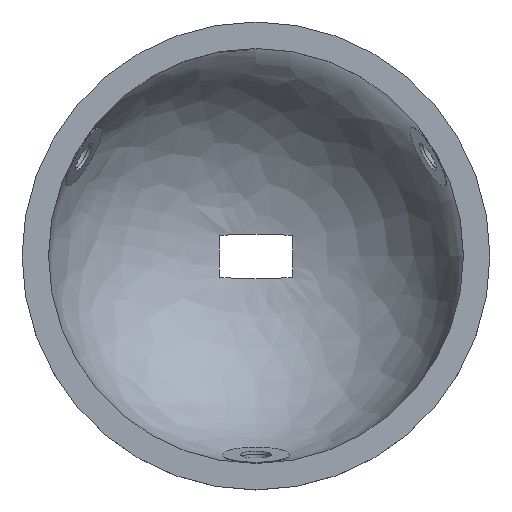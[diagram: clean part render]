
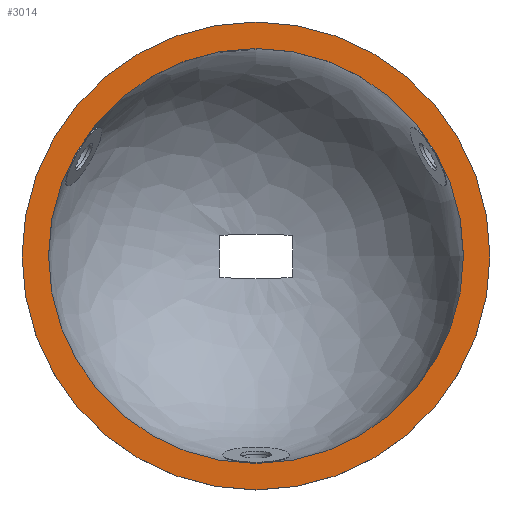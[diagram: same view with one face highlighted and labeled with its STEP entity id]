
A CAD part, top view. The second image highlights one B-rep face of the part: STEP entity #3014.
In plain terms, the highlighted planar face has unit normal (0, 0, 1).
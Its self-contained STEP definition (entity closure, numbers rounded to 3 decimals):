
#635 = CYLINDRICAL_SURFACE('',#636,23.5);
#636 = AXIS2_PLACEMENT_3D('',#637,#638,#639);
#637 = CARTESIAN_POINT('',(0.,0.,-4.));
#638 = DIRECTION('',(0.,0.,1.));
#639 = DIRECTION('',(1.,0.,-0.));
#2271 = VERTEX_POINT('',#2272);
#2272 = CARTESIAN_POINT('',(23.5,0.,0.));
#2293 = EDGE_CURVE('',#2271,#2271,#2294,.T.);
#2294 = SURFACE_CURVE('',#2295,(#2300,#2307),.PCURVE_S1.);
#2295 = CIRCLE('',#2296,23.5);
#2296 = AXIS2_PLACEMENT_3D('',#2297,#2298,#2299);
#2297 = CARTESIAN_POINT('',(0.,0.,0.));
#2298 = DIRECTION('',(0.,0.,1.));
#2299 = DIRECTION('',(1.,0.,-0.));
#2300 = PCURVE('',#635,#2301);
#2301 = DEFINITIONAL_REPRESENTATION('',(#2302),#2306);
#2302 = LINE('',#2303,#2304);
#2303 = CARTESIAN_POINT('',(0.,4.));
#2304 = VECTOR('',#2305,1.);
#2305 = DIRECTION('',(1.,0.));
#2306 = ( GEOMETRIC_REPRESENTATION_CONTEXT(2) 
PARAMETRIC_REPRESENTATION_CONTEXT() REPRESENTATION_CONTEXT('2D SPACE',''
  ) );
#2307 = PCURVE('',#2308,#2313);
#2308 = PLANE('',#2309);
#2309 = AXIS2_PLACEMENT_3D('',#2310,#2311,#2312);
#2310 = CARTESIAN_POINT('',(0.,0.,0.));
#2311 = DIRECTION('',(0.,0.,1.));
#2312 = DIRECTION('',(1.,0.,-0.));
#2313 = DEFINITIONAL_REPRESENTATION('',(#2314),#2318);
#2314 = CIRCLE('',#2315,23.5);
#2315 = AXIS2_PLACEMENT_2D('',#2316,#2317);
#2316 = CARTESIAN_POINT('',(0.,0.));
#2317 = DIRECTION('',(1.,-0.));
#2318 = ( GEOMETRIC_REPRESENTATION_CONTEXT(2) 
PARAMETRIC_REPRESENTATION_CONTEXT() REPRESENTATION_CONTEXT('2D SPACE',''
  ) );
#3014 = ADVANCED_FACE('',(#3015,#3018),#2308,.T.);
#3015 = FACE_BOUND('',#3016,.F.);
#3016 = EDGE_LOOP('',(#3017));
#3017 = ORIENTED_EDGE('',*,*,#2293,.T.);
#3018 = FACE_BOUND('',#3019,.F.);
#3019 = EDGE_LOOP('',(#3020));
#3020 = ORIENTED_EDGE('',*,*,#3021,.F.);
#3021 = EDGE_CURVE('',#3022,#3022,#3024,.T.);
#3022 = VERTEX_POINT('',#3023);
#3023 = CARTESIAN_POINT('',(26.5,0.,0.));
#3024 = SURFACE_CURVE('',#3025,(#3030,#3037),.PCURVE_S1.);
#3025 = CIRCLE('',#3026,26.5);
#3026 = AXIS2_PLACEMENT_3D('',#3027,#3028,#3029);
#3027 = CARTESIAN_POINT('',(0.,0.,0.));
#3028 = DIRECTION('',(0.,0.,1.));
#3029 = DIRECTION('',(1.,0.,-0.));
#3030 = PCURVE('',#2308,#3031);
#3031 = DEFINITIONAL_REPRESENTATION('',(#3032),#3036);
#3032 = CIRCLE('',#3033,26.5);
#3033 = AXIS2_PLACEMENT_2D('',#3034,#3035);
#3034 = CARTESIAN_POINT('',(0.,0.));
#3035 = DIRECTION('',(1.,-0.));
#3036 = ( GEOMETRIC_REPRESENTATION_CONTEXT(2) 
PARAMETRIC_REPRESENTATION_CONTEXT() REPRESENTATION_CONTEXT('2D SPACE',''
  ) );
#3037 = PCURVE('',#3038,#3043);
#3038 = CYLINDRICAL_SURFACE('',#3039,26.5);
#3039 = AXIS2_PLACEMENT_3D('',#3040,#3041,#3042);
#3040 = CARTESIAN_POINT('',(0.,0.,0.));
#3041 = DIRECTION('',(-0.,-0.,-1.));
#3042 = DIRECTION('',(1.,0.,0.));
#3043 = DEFINITIONAL_REPRESENTATION('',(#3044),#3048);
#3044 = LINE('',#3045,#3046);
#3045 = CARTESIAN_POINT('',(-0.,0.));
#3046 = VECTOR('',#3047,1.);
#3047 = DIRECTION('',(-1.,0.));
#3048 = ( GEOMETRIC_REPRESENTATION_CONTEXT(2) 
PARAMETRIC_REPRESENTATION_CONTEXT() REPRESENTATION_CONTEXT('2D SPACE',''
  ) );
